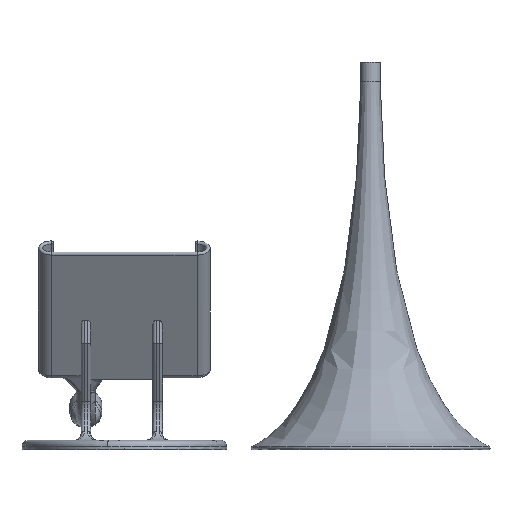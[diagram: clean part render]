
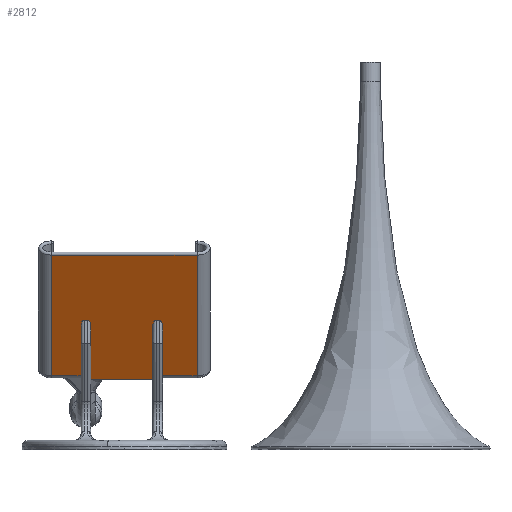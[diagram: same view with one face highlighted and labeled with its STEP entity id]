
A CAD part, left-side view. The second image highlights one B-rep face of the part: STEP entity #2812.
In plain terms, the highlighted planar face has unit normal (-0.866, 0, -0.5).
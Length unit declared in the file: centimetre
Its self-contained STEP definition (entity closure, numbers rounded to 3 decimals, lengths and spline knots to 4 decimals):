
#13=ELLIPSE($,#3051,0.3175,0.1588);
#14=ELLIPSE($,#3052,0.3175,0.1588);
#15=ELLIPSE($,#3053,0.3175,0.1588);
#16=ELLIPSE($,#3054,0.3175,0.1588);
#68=LINE($,#5150,#250);
#135=LINE($,#6330,#317);
#146=LINE($,#6595,#328);
#153=LINE($,#6623,#335);
#158=LINE($,#6991,#340);
#160=LINE($,#7607,#342);
#161=LINE($,#7609,#343);
#162=LINE($,#7613,#344);
#163=LINE($,#7616,#345);
#164=LINE($,#7618,#346);
#165=LINE($,#7622,#347);
#166=LINE($,#7625,#348);
#250=VECTOR($,#3274,7.2);
#317=VECTOR($,#3477,6.9);
#328=VECTOR($,#3532,3.0798);
#335=VECTOR($,#3549,1.4569);
#340=VECTOR($,#3580,1.7109);
#342=VECTOR($,#3588,6.9);
#343=VECTOR($,#3589,2.8574);
#344=VECTOR($,#3592,0.1587);
#345=VECTOR($,#3595,3.0574);
#346=VECTOR($,#3596,3.0574);
#347=VECTOR($,#3599,0.1587);
#348=VECTOR($,#3602,2.8574);
#449=PLANE($,#3050);
#651=FACE_OUTER_BOUND($,#834,.T.);
#834=EDGE_LOOP($,(#2253,#2254,#2255,#2256,#2257,#2258,#2259,#2260,#2261,
#2262,#2263,#2264,#2265,#2266,#2267,#2268));
#1206=VERTEX_POINT($,#5114);
#1209=VERTEX_POINT($,#5146);
#1291=VERTEX_POINT($,#6329);
#1312=VERTEX_POINT($,#6592);
#1313=VERTEX_POINT($,#6594);
#1316=VERTEX_POINT($,#6616);
#1318=VERTEX_POINT($,#6621);
#1325=VERTEX_POINT($,#6989);
#1328=VERTEX_POINT($,#7608);
#1329=VERTEX_POINT($,#7610);
#1330=VERTEX_POINT($,#7612);
#1331=VERTEX_POINT($,#7614);
#1332=VERTEX_POINT($,#7617);
#1333=VERTEX_POINT($,#7619);
#1334=VERTEX_POINT($,#7621);
#1335=VERTEX_POINT($,#7623);
#1480=EDGE_CURVE($,#1209,#1206,#68,.T.);
#1611=EDGE_CURVE($,#1291,#1209,#135,.T.);
#1640=EDGE_CURVE($,#1312,#1313,#146,.T.);
#1650=EDGE_CURVE($,#1316,#1318,#153,.T.);
#1665=EDGE_CURVE($,#1325,#1291,#158,.T.);
#1672=EDGE_CURVE($,#1316,#1206,#160,.T.);
#1673=EDGE_CURVE($,#1318,#1328,#161,.T.);
#1674=EDGE_CURVE($,#1328,#1329,#13,.T.);
#1675=EDGE_CURVE($,#1329,#1330,#162,.T.);
#1676=EDGE_CURVE($,#1330,#1331,#14,.T.);
#1677=EDGE_CURVE($,#1331,#1313,#163,.T.);
#1678=EDGE_CURVE($,#1312,#1332,#164,.T.);
#1679=EDGE_CURVE($,#1332,#1333,#15,.T.);
#1680=EDGE_CURVE($,#1333,#1334,#165,.T.);
#1681=EDGE_CURVE($,#1334,#1335,#16,.T.);
#1682=EDGE_CURVE($,#1335,#1325,#166,.T.);
#2253=ORIENTED_EDGE($,*,*,#1480,.T.);
#2254=ORIENTED_EDGE($,*,*,#1672,.F.);
#2255=ORIENTED_EDGE($,*,*,#1650,.T.);
#2256=ORIENTED_EDGE($,*,*,#1673,.T.);
#2257=ORIENTED_EDGE($,*,*,#1674,.T.);
#2258=ORIENTED_EDGE($,*,*,#1675,.T.);
#2259=ORIENTED_EDGE($,*,*,#1676,.T.);
#2260=ORIENTED_EDGE($,*,*,#1677,.T.);
#2261=ORIENTED_EDGE($,*,*,#1640,.F.);
#2262=ORIENTED_EDGE($,*,*,#1678,.T.);
#2263=ORIENTED_EDGE($,*,*,#1679,.T.);
#2264=ORIENTED_EDGE($,*,*,#1680,.T.);
#2265=ORIENTED_EDGE($,*,*,#1681,.T.);
#2266=ORIENTED_EDGE($,*,*,#1682,.T.);
#2267=ORIENTED_EDGE($,*,*,#1665,.T.);
#2268=ORIENTED_EDGE($,*,*,#1611,.T.);
#2812=ADVANCED_FACE($,(#651),#449,.F.);
#3050=AXIS2_PLACEMENT_3D($,#7606,#3586,#3587);
#3051=AXIS2_PLACEMENT_3D($,#7611,#3590,#3591);
#3052=AXIS2_PLACEMENT_3D($,#7615,#3593,#3594);
#3053=AXIS2_PLACEMENT_3D($,#7620,#3597,#3598);
#3054=AXIS2_PLACEMENT_3D($,#7624,#3600,#3601);
#3274=DIRECTION($,(0.,1.,0.));
#3477=DIRECTION($,(-0.5,0.,0.866));
#3532=DIRECTION($,(0.,1.,0.));
#3549=DIRECTION($,(0.,-1.,0.));
#3580=DIRECTION($,(0.,-1.,0.));
#3586=DIRECTION('center_axis',(0.866,0.,0.5));
#3587=DIRECTION('ref_axis',(0.,1.,0.));
#3588=DIRECTION($,(-0.5,0.,0.866));
#3589=DIRECTION($,(-0.5,0.,0.866));
#3590=DIRECTION('center_axis',(0.866,0.,0.5));
#3591=DIRECTION('ref_axis',(-0.5,0.,0.866));
#3592=DIRECTION($,(0.,-1.,0.));
#3593=DIRECTION('center_axis',(0.866,0.,0.5));
#3594=DIRECTION('ref_axis',(0.5,0.,-0.866));
#3595=DIRECTION($,(0.5,0.,-0.866));
#3596=DIRECTION($,(-0.5,0.,0.866));
#3597=DIRECTION('center_axis',(0.866,0.,0.5));
#3598=DIRECTION('ref_axis',(-0.5,0.,0.866));
#3599=DIRECTION($,(0.,-1.,0.));
#3600=DIRECTION('center_axis',(0.866,0.,0.5));
#3601=DIRECTION('ref_axis',(0.5,0.,-0.866));
#3602=DIRECTION($,(0.5,0.,-0.866));
#5114=CARTESIAN_POINT('',(-26.7499,43.8809,9.6288));
#5146=CARTESIAN_POINT('',(-26.7499,36.6809,9.6288));
#5150=CARTESIAN_POINT($,(-26.7499,38.4809,9.6288));
#6329=CARTESIAN_POINT('',(-23.2999,36.6809,3.6532));
#6330=CARTESIAN_POINT($,(-23.2999,36.6809,3.6532));
#6592=CARTESIAN_POINT('',(-23.1999,38.868,3.48));
#6594=CARTESIAN_POINT('',(-23.1999,41.9478,3.48));
#6595=CARTESIAN_POINT($,(-23.1999,38.4809,3.48));
#6616=CARTESIAN_POINT('',(-23.2999,43.8809,3.6532));
#6621=CARTESIAN_POINT('',(-23.2999,42.424,3.6532));
#6623=CARTESIAN_POINT($,(-23.2999,38.4809,3.6532));
#6989=CARTESIAN_POINT('',(-23.2999,38.3918,3.6532));
#6991=CARTESIAN_POINT($,(-23.2999,38.4809,3.6532));
#7606=CARTESIAN_POINT('Origin',(-23.2999,36.6809,3.6532));
#7607=CARTESIAN_POINT($,(-23.2999,43.8809,3.6532));
#7608=CARTESIAN_POINT('',(-24.7287,42.424,6.1278));
#7609=CARTESIAN_POINT($,(-22.8498,42.424,2.8736));
#7610=CARTESIAN_POINT('',(-24.8874,42.2653,6.4028));
#7611=CARTESIAN_POINT('Origin',(-24.7287,42.2653,6.1278));
#7612=CARTESIAN_POINT('',(-24.8874,42.1065,6.4028));
#7613=CARTESIAN_POINT($,(-24.8874,39.5525,6.4028));
#7614=CARTESIAN_POINT('',(-24.7287,41.9478,6.1278));
#7615=CARTESIAN_POINT('Origin',(-24.7287,42.1065,6.1278));
#7616=CARTESIAN_POINT($,(-22.8498,41.9478,2.8736));
#7617=CARTESIAN_POINT('',(-24.7287,38.868,6.1278));
#7618=CARTESIAN_POINT($,(-23.0116,38.868,3.1539));
#7619=CARTESIAN_POINT('',(-24.8874,38.7093,6.4028));
#7620=CARTESIAN_POINT('Origin',(-24.7287,38.7093,6.1278));
#7621=CARTESIAN_POINT('',(-24.8874,38.5505,6.4028));
#7622=CARTESIAN_POINT($,(-24.8874,37.7745,6.4028));
#7623=CARTESIAN_POINT('',(-24.7287,38.3918,6.1278));
#7624=CARTESIAN_POINT('Origin',(-24.7287,38.5505,6.1278));
#7625=CARTESIAN_POINT($,(-23.0116,38.3918,3.1539));
